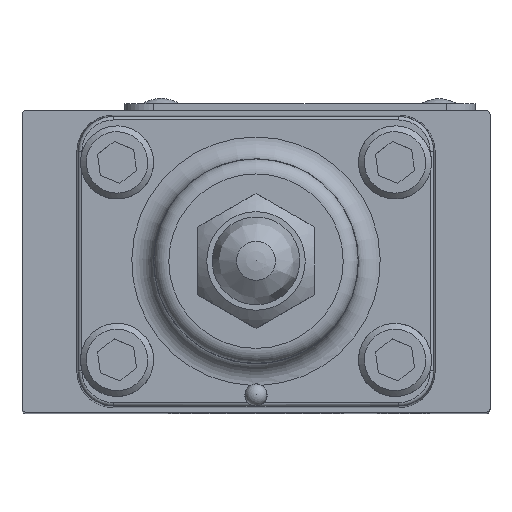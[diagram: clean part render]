
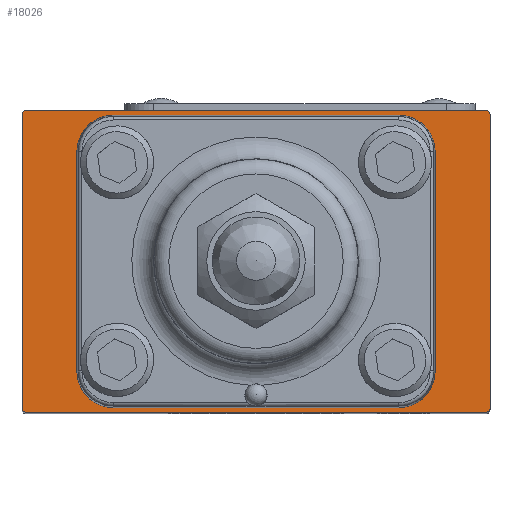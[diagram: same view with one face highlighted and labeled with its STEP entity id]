
A CAD part, top view. The second image highlights one B-rep face of the part: STEP entity #18026.
In plain terms, the highlighted planar face has unit normal (0, 0, 1).
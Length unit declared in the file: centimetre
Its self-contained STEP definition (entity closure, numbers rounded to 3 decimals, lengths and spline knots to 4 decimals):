
#230=LINE('',#27562,#1233);
#234=LINE('',#27574,#1237);
#238=LINE('',#27586,#1241);
#241=LINE('',#27595,#1244);
#250=LINE('',#27628,#1253);
#251=LINE('',#27632,#1254);
#252=LINE('',#27636,#1255);
#253=LINE('',#27639,#1256);
#1233=VECTOR('',#21523,2.3622);
#1237=VECTOR('',#21535,3.0759);
#1241=VECTOR('',#21547,2.3622);
#1244=VECTOR('',#21558,3.0759);
#1253=VECTOR('',#21591,5.0006);
#1254=VECTOR('',#21594,3.1921);
#1255=VECTOR('',#21597,5.0006);
#1256=VECTOR('',#21600,3.1921);
#3012=FACE_BOUND('',#5037,.T.);
#3817=FACE_OUTER_BOUND('',#5036,.T.);
#5036=EDGE_LOOP('',(#11959,#11960,#11961,#11962,#11963,#11964,#11965,#11966));
#5037=EDGE_LOOP('',(#11967,#11968,#11969,#11970,#11971,#11972,#11973,#11974));
#6606=CIRCLE('',#19269,0.4064);
#6608=CIRCLE('',#19273,0.4064);
#6610=CIRCLE('',#19277,0.4064);
#6612=CIRCLE('',#19281,0.4064);
#6618=CIRCLE('',#19294,0.0397);
#6619=CIRCLE('',#19295,0.0397);
#6620=CIRCLE('',#19296,0.0397);
#6621=CIRCLE('',#19297,0.0397);
#7584=VERTEX_POINT('',#27552);
#7585=VERTEX_POINT('',#27554);
#7587=VERTEX_POINT('',#27560);
#7589=VERTEX_POINT('',#27566);
#7591=VERTEX_POINT('',#27572);
#7593=VERTEX_POINT('',#27578);
#7595=VERTEX_POINT('',#27584);
#7597=VERTEX_POINT('',#27590);
#7607=VERTEX_POINT('',#27624);
#7608=VERTEX_POINT('',#27625);
#7609=VERTEX_POINT('',#27627);
#7610=VERTEX_POINT('',#27629);
#7611=VERTEX_POINT('',#27631);
#7612=VERTEX_POINT('',#27633);
#7613=VERTEX_POINT('',#27635);
#7614=VERTEX_POINT('',#27637);
#9308=EDGE_CURVE('',#7585,#7584,#6606,.T.);
#9312=EDGE_CURVE('',#7584,#7587,#230,.T.);
#9315=EDGE_CURVE('',#7587,#7589,#6608,.T.);
#9318=EDGE_CURVE('',#7589,#7591,#234,.T.);
#9321=EDGE_CURVE('',#7591,#7593,#6610,.T.);
#9324=EDGE_CURVE('',#7593,#7595,#238,.T.);
#9327=EDGE_CURVE('',#7595,#7597,#6612,.T.);
#9329=EDGE_CURVE('',#7597,#7585,#241,.T.);
#9343=EDGE_CURVE('',#7607,#7608,#6618,.T.);
#9344=EDGE_CURVE('',#7609,#7607,#250,.T.);
#9345=EDGE_CURVE('',#7610,#7609,#6619,.T.);
#9346=EDGE_CURVE('',#7611,#7610,#251,.T.);
#9347=EDGE_CURVE('',#7612,#7611,#6620,.T.);
#9348=EDGE_CURVE('',#7613,#7612,#252,.T.);
#9349=EDGE_CURVE('',#7614,#7613,#6621,.T.);
#9350=EDGE_CURVE('',#7608,#7614,#253,.T.);
#11959=ORIENTED_EDGE('',*,*,#9343,.F.);
#11960=ORIENTED_EDGE('',*,*,#9344,.F.);
#11961=ORIENTED_EDGE('',*,*,#9345,.F.);
#11962=ORIENTED_EDGE('',*,*,#9346,.F.);
#11963=ORIENTED_EDGE('',*,*,#9347,.F.);
#11964=ORIENTED_EDGE('',*,*,#9348,.F.);
#11965=ORIENTED_EDGE('',*,*,#9349,.F.);
#11966=ORIENTED_EDGE('',*,*,#9350,.F.);
#11967=ORIENTED_EDGE('',*,*,#9308,.T.);
#11968=ORIENTED_EDGE('',*,*,#9312,.T.);
#11969=ORIENTED_EDGE('',*,*,#9315,.T.);
#11970=ORIENTED_EDGE('',*,*,#9318,.T.);
#11971=ORIENTED_EDGE('',*,*,#9321,.T.);
#11972=ORIENTED_EDGE('',*,*,#9324,.T.);
#11973=ORIENTED_EDGE('',*,*,#9327,.T.);
#11974=ORIENTED_EDGE('',*,*,#9329,.T.);
#16416=PLANE('',#19293);
#18026=ADVANCED_FACE('',(#3817,#3012),#16416,.T.);
#19269=AXIS2_PLACEMENT_3D('',#27555,#21516,#21517);
#19273=AXIS2_PLACEMENT_3D('',#27568,#21529,#21530);
#19277=AXIS2_PLACEMENT_3D('',#27580,#21541,#21542);
#19281=AXIS2_PLACEMENT_3D('',#27592,#21553,#21554);
#19293=AXIS2_PLACEMENT_3D('',#27623,#21587,#21588);
#19294=AXIS2_PLACEMENT_3D('',#27626,#21589,#21590);
#19295=AXIS2_PLACEMENT_3D('',#27630,#21592,#21593);
#19296=AXIS2_PLACEMENT_3D('',#27634,#21595,#21596);
#19297=AXIS2_PLACEMENT_3D('',#27638,#21598,#21599);
#21516=DIRECTION('center_axis',(0.,0.,-1.));
#21517=DIRECTION('ref_axis',(-1.,0.,0.));
#21523=DIRECTION('',(0.,-1.,0.));
#21529=DIRECTION('center_axis',(0.,0.,-1.));
#21530=DIRECTION('ref_axis',(0.,1.,0.));
#21535=DIRECTION('',(-1.,0.,0.));
#21541=DIRECTION('center_axis',(0.,0.,-1.));
#21542=DIRECTION('ref_axis',(1.,0.,0.));
#21547=DIRECTION('',(0.,1.,0.));
#21553=DIRECTION('center_axis',(0.,0.,-1.));
#21554=DIRECTION('ref_axis',(0.,-1.,0.));
#21558=DIRECTION('',(1.,0.,0.));
#21587=DIRECTION('center_axis',(0.,0.,1.));
#21588=DIRECTION('ref_axis',(1.,0.,0.));
#21589=DIRECTION('center_axis',(0.,0.,-1.));
#21590=DIRECTION('ref_axis',(-0.707,-0.707,0.));
#21591=DIRECTION('',(-1.,0.,0.));
#21592=DIRECTION('center_axis',(0.,0.,-1.));
#21593=DIRECTION('ref_axis',(0.707,-0.707,0.));
#21594=DIRECTION('',(0.,-1.,0.));
#21595=DIRECTION('center_axis',(0.,0.,-1.));
#21596=DIRECTION('ref_axis',(0.707,0.707,0.));
#21597=DIRECTION('',(1.,0.,0.));
#21598=DIRECTION('center_axis',(0.,0.,-1.));
#21599=DIRECTION('ref_axis',(-0.707,0.707,0.));
#21600=DIRECTION('',(0.,1.,0.));
#27552=CARTESIAN_POINT('',(1.9444,1.1811,4.7104));
#27554=CARTESIAN_POINT('',(1.538,1.5875,4.7104));
#27555=CARTESIAN_POINT('Origin',(1.538,1.1811,4.7104));
#27560=CARTESIAN_POINT('',(1.9444,-1.1811,4.7104));
#27562=CARTESIAN_POINT('',(1.9444,0.5906,4.7104));
#27566=CARTESIAN_POINT('',(1.538,-1.5875,4.7104));
#27568=CARTESIAN_POINT('Origin',(1.538,-1.1811,4.7104));
#27572=CARTESIAN_POINT('',(-1.538,-1.5875,4.7104));
#27574=CARTESIAN_POINT('',(0.769,-1.5875,4.7104));
#27578=CARTESIAN_POINT('',(-1.9444,-1.1811,4.7104));
#27580=CARTESIAN_POINT('Origin',(-1.538,-1.1811,4.7104));
#27584=CARTESIAN_POINT('',(-1.9444,1.1811,4.7104));
#27586=CARTESIAN_POINT('',(-1.9444,-0.5906,4.7104));
#27590=CARTESIAN_POINT('',(-1.538,1.5875,4.7104));
#27592=CARTESIAN_POINT('Origin',(-1.538,1.1811,4.7104));
#27595=CARTESIAN_POINT('',(-0.769,1.5875,4.7104));
#27623=CARTESIAN_POINT('Origin',(0.,0.,
4.7104));
#27624=CARTESIAN_POINT('',(-2.5003,-1.6358,4.7104));
#27625=CARTESIAN_POINT('',(-2.54,-1.5961,4.7104));
#27626=CARTESIAN_POINT('Origin',(-2.5003,-1.5961,4.7104));
#27627=CARTESIAN_POINT('',(2.5003,-1.6358,4.7104));
#27628=CARTESIAN_POINT('',(-2.54,-1.6358,4.7104));
#27629=CARTESIAN_POINT('',(2.54,-1.5961,4.7104));
#27630=CARTESIAN_POINT('Origin',(2.5003,-1.5961,4.7104));
#27631=CARTESIAN_POINT('',(2.54,1.5961,4.7104));
#27632=CARTESIAN_POINT('',(2.54,-1.6358,4.7104));
#27633=CARTESIAN_POINT('',(2.5003,1.6358,4.7104));
#27634=CARTESIAN_POINT('Origin',(2.5003,1.5961,4.7104));
#27635=CARTESIAN_POINT('',(-2.5003,1.6358,4.7104));
#27636=CARTESIAN_POINT('',(2.54,1.6358,4.7104));
#27637=CARTESIAN_POINT('',(-2.54,1.5961,4.7104));
#27638=CARTESIAN_POINT('Origin',(-2.5003,1.5961,4.7104));
#27639=CARTESIAN_POINT('',(-2.54,1.6358,4.7104));
